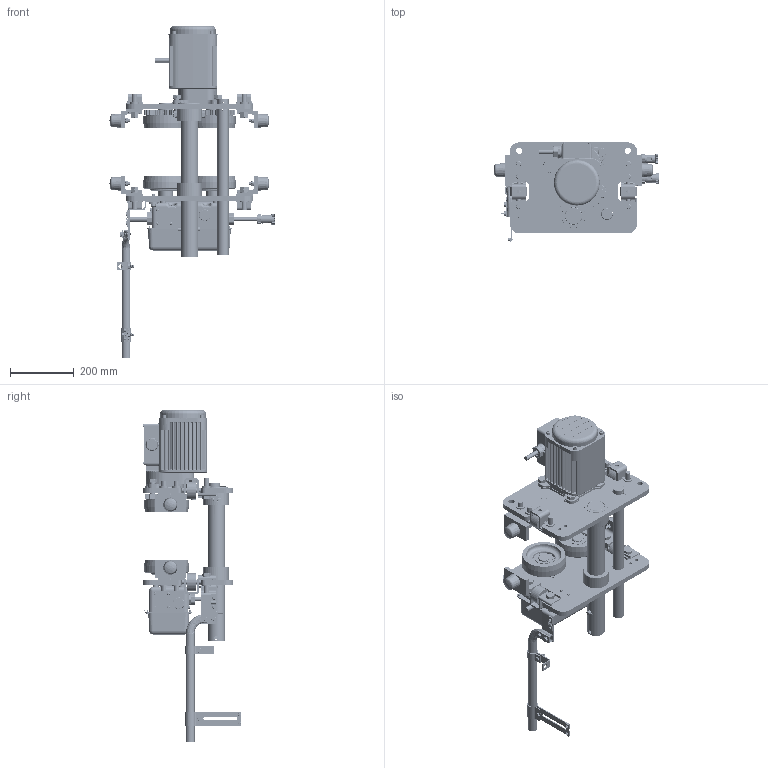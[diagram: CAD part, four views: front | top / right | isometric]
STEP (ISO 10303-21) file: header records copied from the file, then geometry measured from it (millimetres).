
FILE_DESCRIPTION (( 'STEP AP214' ), '1' );
FILE_NAME ('MR2050S.STEP', '2026-08-10T15:51:45', ( '' ), ( '' ), 'SwSTEP 2.0', 'SolidWorks 2026', '' );
FILE_SCHEMA (( 'AUTOMOTIVE_DESIGN' ));
Length unit declared in the file: inch
Products named in the file (86): 70130XX_7013002; M7SE050S9102; MR2DI1811; 6077802; KITO-WASHER; M6F554010; 9012711_9012711; MR1GS9141_MR1GS9141; MR1DS9496; ECP6912AA; MS161050; MR2DS1768; MR1DS1491; MS554010; 9012513; 90933118_M16 X 2.0 X 55 HHCS; MS162030_MS162030; 6307Z Bearing; 90912134_90912134; J1SR000-00080_J1SR000-00080; 12-4 (MR2); MR1DS9493; MR2DS2811; 90094165_90094165; ECP5924AC1; MR2DS1759; 60704; MS006050; MR1GS9311; MR1GS1211 BODY; MR2050S; MR1GS1211 ATTACHMENT; MR1DS9401_1 - 8 TON & 10 L TON; MS104050; MS1102050; 9012715_9012715; MR1GS9205; MR2SHM10S9A8; M7SE050S9101; ECP2304AD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
Assembly tree (221 placements, depth 5):
  MR2050S
    MR1GS5201
      MR1GS9201
      MR1GS9203  x2
      MR1GS9204
    MR1GS5202
      MR1GS9202
      MR1GS9203  x2
      MR1GS9205
    MR1GS9634  x4
    90933118_M16 X 2.0 X 55 HHCS  x16
    MR1FS9631  x4
    9012711_9012711  x8
    9093424_9093424  x16
    MS1101050  x2
      M7SE050S9101
      J1SR000-00080_J1SR000-00080
      6307Z Bearing
    MS1102050  x2
      M7SE050S9102
      J1SR000-00080_J1SR000-00080
      6307Z Bearing
    MS104050  x4
    9047135_9047135  x4
    9012715_9012715  x14
    70130XX_7013002
      MR1DS9411
      MR1DS9401_1 - 8 TON & 10 L TON
      MR1DS9421
      MS554010  x12
      MR2DS2811
        ECP5924AH
        MS527010
        MR2DI1811
        ES558003  x4
      MS517010  x4
      MS551010  x4
      MR2DS1768
        60704
          ECP5924AA1
          ECP5924AD1
          ECP5924AC1
          KITO-WASHER
          ECP5924AB1
        16-6P (MR2)
        ECP2108AC
        ECP6916AA
      MR2DS1759
        60704
          ECP5924AA1
          ECP5924AD1
          ECP5924AC1
          KITO-WASHER
          ECP5924AB1
        16-4 (MR2)
        ECP6912AA
        ECP2304AD
      ECP5924AC1
      ECP5924AB1
      ECP5924AD1
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Bounding box: 517.81 x 310.04 x 1041.73 mm (x, y, z)
Volume: 13981302.8 mm3; surface area: 2745054.3 mm2
Topology: 246 solids, 262 shells, 9717 faces, 25661 edges, 16750 vertices
Faces by surface type: plane 4626, cylinder 2555, cone 1356, bspline 741, torus 407, sphere 32
Entity records: 205197 total; most frequent: CARTESIAN_POINT 81636, ORIENTED_EDGE 25792, DIRECTION 23177, EDGE_CURVE 12898, VERTEX_POINT 8608, AXIS2_PLACEMENT_3D 8363, LINE 6451, VECTOR 6451
